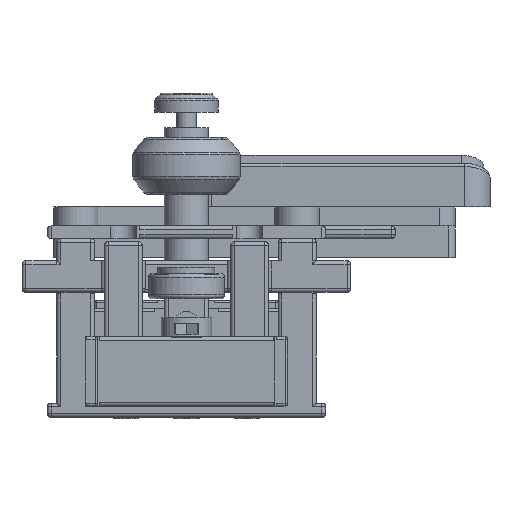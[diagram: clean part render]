
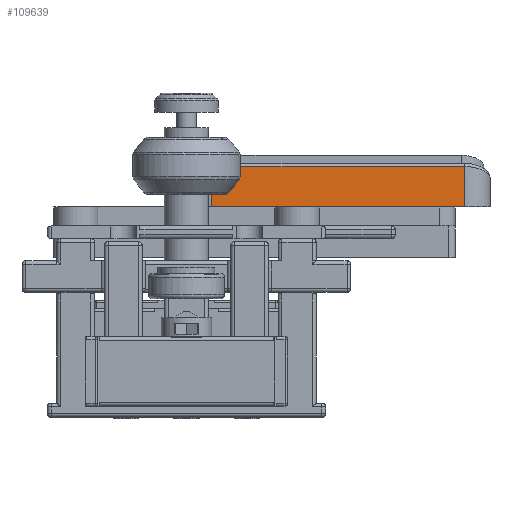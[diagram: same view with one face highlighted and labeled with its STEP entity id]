
A CAD part, left-side view. The second image highlights one B-rep face of the part: STEP entity #109639.
In plain terms, the highlighted planar face has unit normal (-1, 0, 0).
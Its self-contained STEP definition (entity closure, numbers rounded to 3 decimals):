
#109639 = ADVANCED_FACE('',(#109640),#109654,.F.);
#109640 = FACE_BOUND('',#109641,.F.);
#109641 = EDGE_LOOP('',(#109642,#109677,#109705,#109733));
#109642 = ORIENTED_EDGE('',*,*,#109643,.T.);
#109643 = EDGE_CURVE('',#109644,#109646,#109648,.T.);
#109644 = VERTEX_POINT('',#109645);
#109645 = CARTESIAN_POINT('',(40.,-8.,122.));
#109646 = VERTEX_POINT('',#109647);
#109647 = CARTESIAN_POINT('',(40.,-8.,134.786));
#109648 = SURFACE_CURVE('',#109649,(#109653,#109665),.PCURVE_S1.);
#109649 = LINE('',#109650,#109651);
#109650 = CARTESIAN_POINT('',(40.,-8.,122.));
#109651 = VECTOR('',#109652,1.);
#109652 = DIRECTION('',(0.,0.,1.));
#109653 = PCURVE('',#109654,#109659);
#109654 = PLANE('',#109655);
#109655 = AXIS2_PLACEMENT_3D('',#109656,#109657,#109658);
#109656 = CARTESIAN_POINT('',(40.,-96.,122.));
#109657 = DIRECTION('',(1.,0.,0.));
#109658 = DIRECTION('',(0.,0.,1.));
#109659 = DEFINITIONAL_REPRESENTATION('',(#109660),#109664);
#109660 = LINE('',#109661,#109662);
#109661 = CARTESIAN_POINT('',(0.,-88.));
#109662 = VECTOR('',#109663,1.);
#109663 = DIRECTION('',(1.,0.));
#109664 = ( GEOMETRIC_REPRESENTATION_CONTEXT(2) 
PARAMETRIC_REPRESENTATION_CONTEXT() REPRESENTATION_CONTEXT('2D SPACE',''
  ) );
#109665 = PCURVE('',#109666,#109671);
#109666 = CYLINDRICAL_SURFACE('',#109667,8.);
#109667 = AXIS2_PLACEMENT_3D('',#109668,#109669,#109670);
#109668 = CARTESIAN_POINT('',(48.,-8.,122.));
#109669 = DIRECTION('',(0.,0.,1.));
#109670 = DIRECTION('',(-1.,-0.,0.));
#109671 = DEFINITIONAL_REPRESENTATION('',(#109672),#109676);
#109672 = LINE('',#109673,#109674);
#109673 = CARTESIAN_POINT('',(-0.,0.));
#109674 = VECTOR('',#109675,1.);
#109675 = DIRECTION('',(-0.,1.));
#109676 = ( GEOMETRIC_REPRESENTATION_CONTEXT(2) 
PARAMETRIC_REPRESENTATION_CONTEXT() REPRESENTATION_CONTEXT('2D SPACE',''
  ) );
#109677 = ORIENTED_EDGE('',*,*,#109678,.F.);
#109678 = EDGE_CURVE('',#109679,#109646,#109681,.T.);
#109679 = VERTEX_POINT('',#109680);
#109680 = CARTESIAN_POINT('',(40.,-88.,134.786));
#109681 = SURFACE_CURVE('',#109682,(#109686,#109693),.PCURVE_S1.);
#109682 = LINE('',#109683,#109684);
#109683 = CARTESIAN_POINT('',(40.,-88.,134.786));
#109684 = VECTOR('',#109685,1.);
#109685 = DIRECTION('',(0.,1.,0.));
#109686 = PCURVE('',#109654,#109687);
#109687 = DEFINITIONAL_REPRESENTATION('',(#109688),#109692);
#109688 = LINE('',#109689,#109690);
#109689 = CARTESIAN_POINT('',(12.786,-8.));
#109690 = VECTOR('',#109691,1.);
#109691 = DIRECTION('',(0.,-1.));
#109692 = ( GEOMETRIC_REPRESENTATION_CONTEXT(2) 
PARAMETRIC_REPRESENTATION_CONTEXT() REPRESENTATION_CONTEXT('2D SPACE',''
  ) );
#109693 = PCURVE('',#109694,#109699);
#109694 = CYLINDRICAL_SURFACE('',#109695,1.);
#109695 = AXIS2_PLACEMENT_3D('',#109696,#109697,#109698);
#109696 = CARTESIAN_POINT('',(41.,-88.,134.786));
#109697 = DIRECTION('',(0.,1.,0.));
#109698 = DIRECTION('',(-1.,0.,0.));
#109699 = DEFINITIONAL_REPRESENTATION('',(#109700),#109704);
#109700 = LINE('',#109701,#109702);
#109701 = CARTESIAN_POINT('',(0.,0.));
#109702 = VECTOR('',#109703,1.);
#109703 = DIRECTION('',(0.,1.));
#109704 = ( GEOMETRIC_REPRESENTATION_CONTEXT(2) 
PARAMETRIC_REPRESENTATION_CONTEXT() REPRESENTATION_CONTEXT('2D SPACE',''
  ) );
#109705 = ORIENTED_EDGE('',*,*,#109706,.F.);
#109706 = EDGE_CURVE('',#109707,#109679,#109709,.T.);
#109707 = VERTEX_POINT('',#109708);
#109708 = CARTESIAN_POINT('',(40.,-88.,122.));
#109709 = SURFACE_CURVE('',#109710,(#109714,#109721),.PCURVE_S1.);
#109710 = LINE('',#109711,#109712);
#109711 = CARTESIAN_POINT('',(40.,-88.,122.));
#109712 = VECTOR('',#109713,1.);
#109713 = DIRECTION('',(0.,0.,1.));
#109714 = PCURVE('',#109654,#109715);
#109715 = DEFINITIONAL_REPRESENTATION('',(#109716),#109720);
#109716 = LINE('',#109717,#109718);
#109717 = CARTESIAN_POINT('',(0.,-8.));
#109718 = VECTOR('',#109719,1.);
#109719 = DIRECTION('',(1.,0.));
#109720 = ( GEOMETRIC_REPRESENTATION_CONTEXT(2) 
PARAMETRIC_REPRESENTATION_CONTEXT() REPRESENTATION_CONTEXT('2D SPACE',''
  ) );
#109721 = PCURVE('',#109722,#109727);
#109722 = CYLINDRICAL_SURFACE('',#109723,8.);
#109723 = AXIS2_PLACEMENT_3D('',#109724,#109725,#109726);
#109724 = CARTESIAN_POINT('',(48.,-88.,122.));
#109725 = DIRECTION('',(0.,0.,1.));
#109726 = DIRECTION('',(-1.,-0.,0.));
#109727 = DEFINITIONAL_REPRESENTATION('',(#109728),#109732);
#109728 = LINE('',#109729,#109730);
#109729 = CARTESIAN_POINT('',(0.,0.));
#109730 = VECTOR('',#109731,1.);
#109731 = DIRECTION('',(0.,1.));
#109732 = ( GEOMETRIC_REPRESENTATION_CONTEXT(2) 
PARAMETRIC_REPRESENTATION_CONTEXT() REPRESENTATION_CONTEXT('2D SPACE',''
  ) );
#109733 = ORIENTED_EDGE('',*,*,#109734,.T.);
#109734 = EDGE_CURVE('',#109707,#109644,#109735,.T.);
#109735 = SURFACE_CURVE('',#109736,(#109740,#109747),.PCURVE_S1.);
#109736 = LINE('',#109737,#109738);
#109737 = CARTESIAN_POINT('',(40.,-96.,122.));
#109738 = VECTOR('',#109739,1.);
#109739 = DIRECTION('',(0.,1.,0.));
#109740 = PCURVE('',#109654,#109741);
#109741 = DEFINITIONAL_REPRESENTATION('',(#109742),#109746);
#109742 = LINE('',#109743,#109744);
#109743 = CARTESIAN_POINT('',(0.,0.));
#109744 = VECTOR('',#109745,1.);
#109745 = DIRECTION('',(0.,-1.));
#109746 = ( GEOMETRIC_REPRESENTATION_CONTEXT(2) 
PARAMETRIC_REPRESENTATION_CONTEXT() REPRESENTATION_CONTEXT('2D SPACE',''
  ) );
#109747 = PCURVE('',#109748,#109753);
#109748 = PLANE('',#109749);
#109749 = AXIS2_PLACEMENT_3D('',#109750,#109751,#109752);
#109750 = CARTESIAN_POINT('',(40.,-96.,122.));
#109751 = DIRECTION('',(0.,0.,1.));
#109752 = DIRECTION('',(1.,0.,0.));
#109753 = DEFINITIONAL_REPRESENTATION('',(#109754),#109758);
#109754 = LINE('',#109755,#109756);
#109755 = CARTESIAN_POINT('',(0.,0.));
#109756 = VECTOR('',#109757,1.);
#109757 = DIRECTION('',(0.,1.));
#109758 = ( GEOMETRIC_REPRESENTATION_CONTEXT(2) 
PARAMETRIC_REPRESENTATION_CONTEXT() REPRESENTATION_CONTEXT('2D SPACE',''
  ) );
